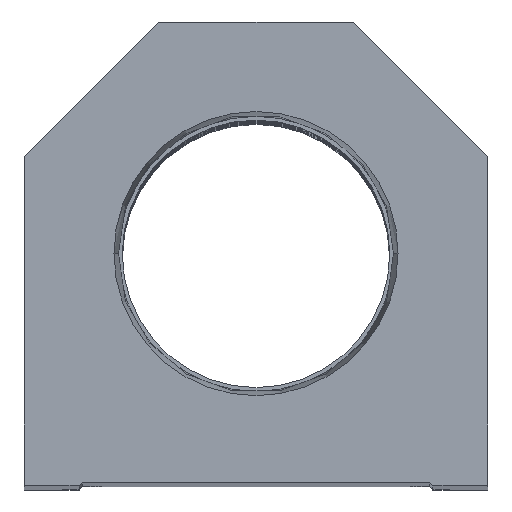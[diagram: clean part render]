
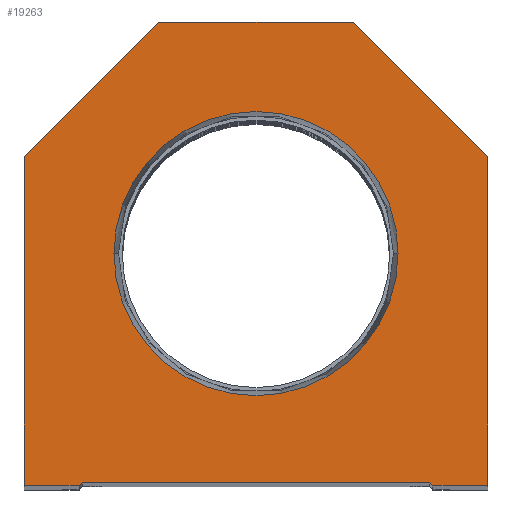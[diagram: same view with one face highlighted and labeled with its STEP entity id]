
A CAD part, top view. The second image highlights one B-rep face of the part: STEP entity #19263.
In plain terms, the highlighted planar face has unit normal (0, 0, 1).
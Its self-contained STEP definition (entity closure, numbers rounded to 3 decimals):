
#120 = ORIENTED_EDGE ( 'NONE', *, *, #14729, .T. ) ;
#167 = DIRECTION ( 'NONE',  ( 1., 0., 0. ) ) ;
#214 = DIRECTION ( 'NONE',  ( 0.707, 0.707, 0. ) ) ;
#364 = EDGE_LOOP ( 'NONE', ( #19057, #18053 ) ) ;
#447 = CARTESIAN_POINT ( 'NONE',  ( 14.55, 14.55, 0. ) ) ;
#487 = VERTEX_POINT ( 'NONE', #16125 ) ;
#594 = VERTEX_POINT ( 'NONE', #20078 ) ;
#1302 = CARTESIAN_POINT ( 'NONE',  ( 29.1, 0., 0. ) ) ;
#1481 = DIRECTION ( 'NONE',  ( 1., 0., 0. ) ) ;
#1559 = CARTESIAN_POINT ( 'NONE',  ( -38.1, 54.1, 0. ) ) ;
#1841 = VECTOR ( 'NONE', #23292, 1000. ) ;
#1932 = CARTESIAN_POINT ( 'NONE',  ( 38.1, 0., 0. ) ) ;
#2152 = EDGE_CURVE ( 'NONE', #18394, #9519, #22246, .T. ) ;
#3163 = EDGE_CURVE ( 'NONE', #487, #4623, #9653, .T. ) ;
#3531 = CARTESIAN_POINT ( 'NONE',  ( 38.1, 54.1, 0. ) ) ;
#3909 = VECTOR ( 'NONE', #21122, 1000. ) ;
#4044 = DIRECTION ( 'NONE',  ( 0., 0., 1. ) ) ;
#4096 = CARTESIAN_POINT ( 'NONE',  ( 16., 76.2, 0. ) ) ;
#4144 = CARTESIAN_POINT ( 'NONE',  ( 0., 0., 0. ) ) ;
#4623 = VERTEX_POINT ( 'NONE', #1302 ) ;
#4738 = ORIENTED_EDGE ( 'NONE', *, *, #16232, .T. ) ;
#4792 = LINE ( 'NONE', #17495, #1841 ) ;
#4913 = EDGE_LOOP ( 'NONE', ( #12020, #17681, #4738, #23434, #6429, #17202, #22378, #120, #9169, #18191 ) ) ;
#5025 = LINE ( 'NONE', #18067, #23156 ) ;
#5097 = CARTESIAN_POINT ( 'NONE',  ( -29.1, 0., 0. ) ) ;
#5397 = CARTESIAN_POINT ( 'NONE',  ( 16., 76.2, 0. ) ) ;
#5623 = PLANE ( 'NONE',  #23179 ) ;
#6158 = CARTESIAN_POINT ( 'NONE',  ( -14.55, 14.55, 0. ) ) ;
#6255 = CARTESIAN_POINT ( 'NONE',  ( -28.6, 0., 0. ) ) ;
#6320 = EDGE_CURVE ( 'NONE', #9877, #7178, #9610, .T. ) ;
#6415 = CARTESIAN_POINT ( 'NONE',  ( 0., 38.1, 0. ) ) ;
#6429 = ORIENTED_EDGE ( 'NONE', *, *, #11005, .T. ) ;
#7178 = VERTEX_POINT ( 'NONE', #18492 ) ;
#7322 = DIRECTION ( 'NONE',  ( 0., 0., 1. ) ) ;
#7362 = AXIS2_PLACEMENT_3D ( 'NONE', #16769, #4044, #17133 ) ;
#8639 = VERTEX_POINT ( 'NONE', #11907 ) ;
#9169 = ORIENTED_EDGE ( 'NONE', *, *, #23515, .T. ) ;
#9485 = VECTOR ( 'NONE', #21702, 1000. ) ;
#9519 = VERTEX_POINT ( 'NONE', #4096 ) ;
#9610 = CIRCLE ( 'NONE', #23119, 23.374 ) ;
#9653 = LINE ( 'NONE', #447, #13840 ) ;
#9877 = VERTEX_POINT ( 'NONE', #20878 ) ;
#10390 = EDGE_CURVE ( 'NONE', #594, #8639, #13810, .T. ) ;
#10470 = LINE ( 'NONE', #5397, #9485 ) ;
#10628 = VECTOR ( 'NONE', #214, 1000. ) ;
#11005 = EDGE_CURVE ( 'NONE', #4623, #11893, #5025, .T. ) ;
#11125 = DIRECTION ( 'NONE',  ( -0.707, -0.707, 0. ) ) ;
#11828 = DIRECTION ( 'NONE',  ( 1., 0., 0. ) ) ;
#11893 = VERTEX_POINT ( 'NONE', #1932 ) ;
#11907 = CARTESIAN_POINT ( 'NONE',  ( -38.1, 0., 0. ) ) ;
#12020 = ORIENTED_EDGE ( 'NONE', *, *, #23717, .T. ) ;
#12348 = CARTESIAN_POINT ( 'NONE',  ( -38.1, 0., 0. ) ) ;
#13364 = FACE_OUTER_BOUND ( 'NONE', #4913, .T. ) ;
#13557 = VERTEX_POINT ( 'NONE', #5097 ) ;
#13712 = VERTEX_POINT ( 'NONE', #20998 ) ;
#13810 = LINE ( 'NONE', #12348, #3909 ) ;
#13840 = VECTOR ( 'NONE', #17045, 1000. ) ;
#14407 = EDGE_CURVE ( 'NONE', #13557, #13712, #22586, .T. ) ;
#14729 = EDGE_CURVE ( 'NONE', #9519, #15013, #10470, .T. ) ;
#15013 = VERTEX_POINT ( 'NONE', #19200 ) ;
#15219 = LINE ( 'NONE', #16772, #21862 ) ;
#15515 = DIRECTION ( 'NONE',  ( 1., 0., 0. ) ) ;
#16125 = CARTESIAN_POINT ( 'NONE',  ( 28.6, 0.5, 0. ) ) ;
#16232 = EDGE_CURVE ( 'NONE', #13712, #487, #15219, .T. ) ;
#16475 = CARTESIAN_POINT ( 'NONE',  ( 38.1, 54.1, 0. ) ) ;
#16522 = DIRECTION ( 'NONE',  ( 1., 0., 0. ) ) ;
#16769 = CARTESIAN_POINT ( 'NONE',  ( 0., 38.1, 0. ) ) ;
#16772 = CARTESIAN_POINT ( 'NONE',  ( -28.6, 0.5, 0. ) ) ;
#16827 = DIRECTION ( 'NONE',  ( -0.707, 0.707, 0. ) ) ;
#16940 = EDGE_CURVE ( 'NONE', #11893, #18394, #4792, .T. ) ;
#17045 = DIRECTION ( 'NONE',  ( 0.707, -0.707, 0. ) ) ;
#17133 = DIRECTION ( 'NONE',  ( 1., 0., 0. ) ) ;
#17202 = ORIENTED_EDGE ( 'NONE', *, *, #16940, .T. ) ;
#17311 = DIRECTION ( 'NONE',  ( 0., 0., 1. ) ) ;
#17495 = CARTESIAN_POINT ( 'NONE',  ( 38.1, 0., 0. ) ) ;
#17681 = ORIENTED_EDGE ( 'NONE', *, *, #14407, .T. ) ;
#18053 = ORIENTED_EDGE ( 'NONE', *, *, #6320, .F. ) ;
#18067 = CARTESIAN_POINT ( 'NONE',  ( 28.6, 0., 0. ) ) ;
#18191 = ORIENTED_EDGE ( 'NONE', *, *, #10390, .T. ) ;
#18394 = VERTEX_POINT ( 'NONE', #3531 ) ;
#18492 = CARTESIAN_POINT ( 'NONE',  ( 23.374, 38.1, 0. ) ) ;
#18699 = LINE ( 'NONE', #6255, #20583 ) ;
#19057 = ORIENTED_EDGE ( 'NONE', *, *, #21159, .F. ) ;
#19200 = CARTESIAN_POINT ( 'NONE',  ( -16., 76.2, 0. ) ) ;
#19263 = ADVANCED_FACE ( 'NONE', ( #22524, #13364 ), #5623, .T. ) ;
#19917 = VECTOR ( 'NONE', #16827, 1000. ) ;
#20078 = CARTESIAN_POINT ( 'NONE',  ( -38.1, 54.1, 0. ) ) ;
#20098 = CIRCLE ( 'NONE', #7362, 23.374 ) ;
#20583 = VECTOR ( 'NONE', #11828, 1000. ) ;
#20878 = CARTESIAN_POINT ( 'NONE',  ( -23.374, 38.1, 0. ) ) ;
#20998 = CARTESIAN_POINT ( 'NONE',  ( -28.6, 0.5, 0. ) ) ;
#21122 = DIRECTION ( 'NONE',  ( 0., -1., 0. ) ) ;
#21159 = EDGE_CURVE ( 'NONE', #7178, #9877, #20098, .T. ) ;
#21357 = VECTOR ( 'NONE', #11125, 1000. ) ;
#21702 = DIRECTION ( 'NONE',  ( -1., 0., 0. ) ) ;
#21862 = VECTOR ( 'NONE', #167, 1000. ) ;
#22246 = LINE ( 'NONE', #16475, #19917 ) ;
#22344 = LINE ( 'NONE', #1559, #21357 ) ;
#22378 = ORIENTED_EDGE ( 'NONE', *, *, #2152, .T. ) ;
#22524 = FACE_BOUND ( 'NONE', #364, .T. ) ;
#22586 = LINE ( 'NONE', #6158, #10628 ) ;
#23119 = AXIS2_PLACEMENT_3D ( 'NONE', #6415, #17311, #15515 ) ;
#23156 = VECTOR ( 'NONE', #1481, 1000. ) ;
#23179 = AXIS2_PLACEMENT_3D ( 'NONE', #4144, #7322, #16522 ) ;
#23292 = DIRECTION ( 'NONE',  ( 0., 1., 0. ) ) ;
#23434 = ORIENTED_EDGE ( 'NONE', *, *, #3163, .T. ) ;
#23515 = EDGE_CURVE ( 'NONE', #15013, #594, #22344, .T. ) ;
#23717 = EDGE_CURVE ( 'NONE', #8639, #13557, #18699, .T. ) ;
